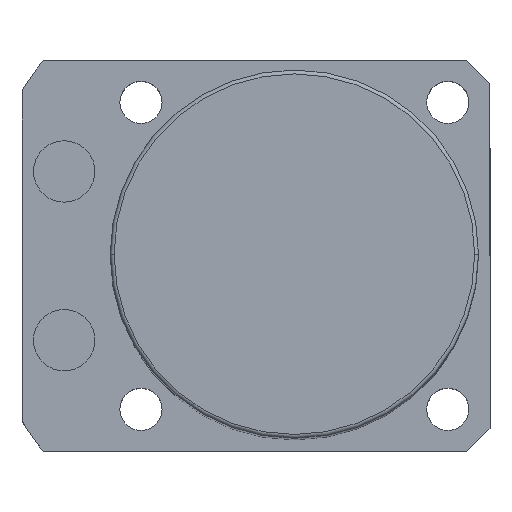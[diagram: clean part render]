
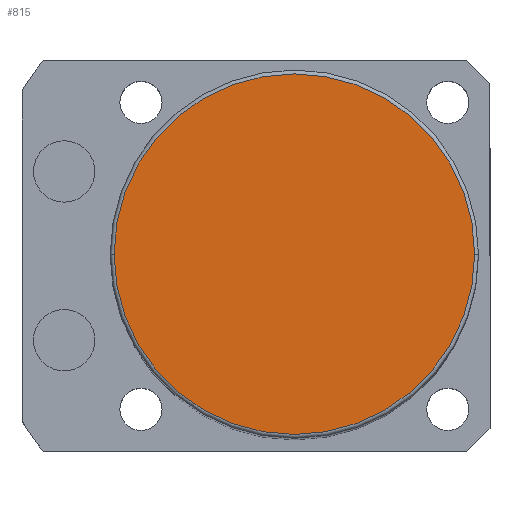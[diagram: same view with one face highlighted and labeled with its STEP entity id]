
A CAD part, top view. The second image highlights one B-rep face of the part: STEP entity #815.
In plain terms, the highlighted planar face has unit normal (0, 0, 1).
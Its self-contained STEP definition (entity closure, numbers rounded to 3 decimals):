
#604 = EDGE_CURVE ( 'NONE', #649, #2000, #1984, .T. ) ;
#649 = VERTEX_POINT ( 'NONE', #2168 ) ;
#677 = DIRECTION ( 'NONE',  ( 1., 0., 0. ) ) ;
#689 = DIRECTION ( 'NONE',  ( 1., 0., 0. ) ) ;
#694 = CARTESIAN_POINT ( 'NONE',  ( 0., 0., 136. ) ) ;
#815 = ADVANCED_FACE ( 'NONE', ( #1443 ), #1544, .T. ) ;
#877 = CARTESIAN_POINT ( 'NONE',  ( 0., 0., 136. ) ) ;
#897 = DIRECTION ( 'NONE',  ( 0., 0., 1. ) ) ;
#945 = AXIS2_PLACEMENT_3D ( 'NONE', #877, #1291, #677 ) ;
#1026 = CARTESIAN_POINT ( 'NONE',  ( 23.5, 0., 136. ) ) ;
#1058 = ORIENTED_EDGE ( 'NONE', *, *, #604, .T. ) ;
#1285 = CARTESIAN_POINT ( 'NONE',  ( 0., 0., 136. ) ) ;
#1291 = DIRECTION ( 'NONE',  ( 0., 0., 1. ) ) ;
#1348 = ORIENTED_EDGE ( 'NONE', *, *, #2670, .T. ) ;
#1443 = FACE_OUTER_BOUND ( 'NONE', #2628, .T. ) ;
#1544 = PLANE ( 'NONE',  #2259 ) ;
#1553 = DIRECTION ( 'NONE',  ( 1., 0., 0. ) ) ;
#1980 = DIRECTION ( 'NONE',  ( 0., 0., 1. ) ) ;
#1984 = CIRCLE ( 'NONE', #2434, 23.5 ) ;
#2000 = VERTEX_POINT ( 'NONE', #1026 ) ;
#2168 = CARTESIAN_POINT ( 'NONE',  ( -23.5, 0., 136. ) ) ;
#2259 = AXIS2_PLACEMENT_3D ( 'NONE', #694, #897, #1553 ) ;
#2434 = AXIS2_PLACEMENT_3D ( 'NONE', #1285, #1980, #689 ) ;
#2628 = EDGE_LOOP ( 'NONE', ( #1348, #1058 ) ) ;
#2670 = EDGE_CURVE ( 'NONE', #2000, #649, #2710, .T. ) ;
#2710 = CIRCLE ( 'NONE', #945, 23.5 ) ;
